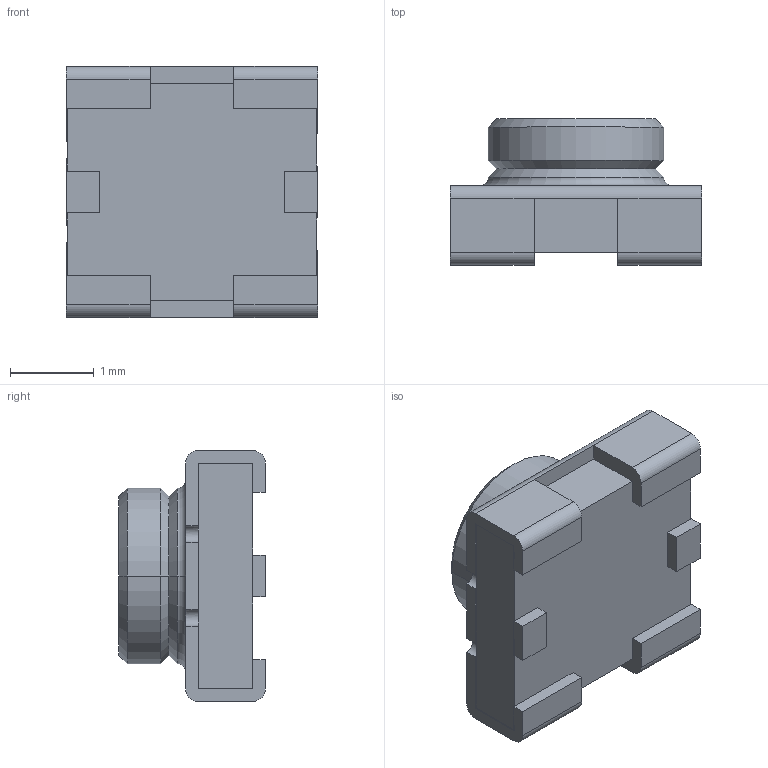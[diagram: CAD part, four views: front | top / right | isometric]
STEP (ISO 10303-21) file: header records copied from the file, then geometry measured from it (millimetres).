
FILE_DESCRIPTION((''),'2;1');
FILE_NAME('MM8430-2600B_PRT','2008-06-30T',('GRA'),(''),'PRO/ENGINEER BY PARAMETRIC TECHNOLOGY CORPORATION, 2006170','PRO/ENGINEER BY PARAMETRIC TECHNOLOGY CORPORATION, 2006170','');
FILE_SCHEMA(('CONFIG_CONTROL_DESIGN'));
Length unit declared in the file: millimetre
Products named in the file (1): MM8430-2600B_PRT
Bounding box: 3 x 1.75 x 3 mm (x, y, z)
Volume: 9.3 mm3; surface area: 36.3 mm2
Topology: 1 solids, 1 shells, 90 faces, 228 edges, 142 vertices
Faces by surface type: plane 68, cylinder 12, cone 8, torus 2
Entity records: 2690 total; most frequent: CARTESIAN_POINT 460, ORIENTED_EDGE 456, DIRECTION 448, EDGE_CURVE 228, VECTOR 188, LINE 188, VERTEX_POINT 142, AXIS2_PLACEMENT_3D 130
